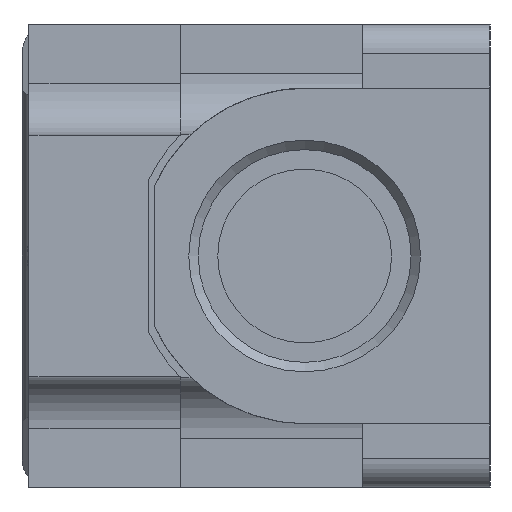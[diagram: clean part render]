
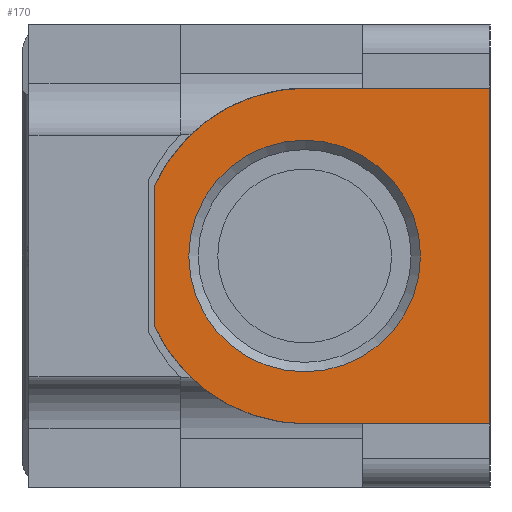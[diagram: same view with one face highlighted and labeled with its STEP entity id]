
A CAD part, left-side view. The second image highlights one B-rep face of the part: STEP entity #170.
In plain terms, the highlighted planar face has unit normal (-1, 0, 0).
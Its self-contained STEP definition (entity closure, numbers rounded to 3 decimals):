
#170 = ADVANCED_FACE( '', ( #362, #363 ), #364, .F. );
#362 = FACE_BOUND( '', #776, .T. );
#363 = FACE_OUTER_BOUND( '', #777, .T. );
#364 = PLANE( '', #778 );
#776 = EDGE_LOOP( '', ( #1194 ) );
#777 = EDGE_LOOP( '', ( #1195, #1196, #1197, #1198, #1199, #1200 ) );
#778 = AXIS2_PLACEMENT_3D( '', #1201, #1202, #1203 );
#1194 = ORIENTED_EDGE( '', *, *, #2696, .T. );
#1195 = ORIENTED_EDGE( '', *, *, #2697, .F. );
#1196 = ORIENTED_EDGE( '', *, *, #2698, .F. );
#1197 = ORIENTED_EDGE( '', *, *, #2699, .F. );
#1198 = ORIENTED_EDGE( '', *, *, #2700, .F. );
#1199 = ORIENTED_EDGE( '', *, *, #2701, .F. );
#1200 = ORIENTED_EDGE( '', *, *, #2702, .F. );
#1201 = CARTESIAN_POINT( '', ( 0., -0.2, 0. ) );
#1202 = DIRECTION( '', ( 1., 0., 0. ) );
#1203 = DIRECTION( '', ( 0., 0., -1. ) );
#2696 = EDGE_CURVE( '', #3169, #3169, #3170, .T. );
#2697 = EDGE_CURVE( '', #3171, #3172, #3173, .T. );
#2698 = EDGE_CURVE( '', #3174, #3171, #3175, .T. );
#2699 = EDGE_CURVE( '', #3176, #3174, #3177, .T. );
#2700 = EDGE_CURVE( '', #3178, #3176, #3179, .T. );
#2701 = EDGE_CURVE( '', #3180, #3178, #3181, .T. );
#2702 = EDGE_CURVE( '', #3172, #3180, #3182, .T. );
#3169 = VERTEX_POINT( '', #3978 );
#3170 = CIRCLE( '', #3979, 10. );
#3171 = VERTEX_POINT( '', #3980 );
#3172 = VERTEX_POINT( '', #3981 );
#3173 = CIRCLE( '', #3982, 14.5 );
#3174 = VERTEX_POINT( '', #3983 );
#3175 = LINE( '', #3984, #3985 );
#3176 = VERTEX_POINT( '', #3986 );
#3177 = CIRCLE( '', #3987, 14.5 );
#3178 = VERTEX_POINT( '', #3988 );
#3179 = LINE( '', #3989, #3990 );
#3180 = VERTEX_POINT( '', #3991 );
#3181 = LINE( '', #3992, #3993 );
#3182 = LINE( '', #3994, #3995 );
#3978 = CARTESIAN_POINT( '', ( 0., 0., -10. ) );
#3979 = AXIS2_PLACEMENT_3D( '', #5068, #5069, #5070 );
#3980 = CARTESIAN_POINT( '', ( 0., 13., 6.001 ) );
#3981 = CARTESIAN_POINT( '', ( 0., -0.2, 14.5 ) );
#3982 = AXIS2_PLACEMENT_3D( '', #5071, #5072, #5073 );
#3983 = CARTESIAN_POINT( '', ( 0., 13., -6.001 ) );
#3984 = CARTESIAN_POINT( '', ( 0., 13., -6.001 ) );
#3985 = VECTOR( '', #5074, 1000. );
#3986 = CARTESIAN_POINT( '', ( 0., -0.2, -14.5 ) );
#3987 = AXIS2_PLACEMENT_3D( '', #5075, #5076, #5077 );
#3988 = CARTESIAN_POINT( '', ( 0., -16., -14.5 ) );
#3989 = CARTESIAN_POINT( '', ( 0., -16., -14.5 ) );
#3990 = VECTOR( '', #5078, 1000. );
#3991 = CARTESIAN_POINT( '', ( 0., -16., 14.5 ) );
#3992 = CARTESIAN_POINT( '', ( 0., -16., 14.5 ) );
#3993 = VECTOR( '', #5079, 1000. );
#3994 = CARTESIAN_POINT( '', ( 0., -0.2, 14.5 ) );
#3995 = VECTOR( '', #5080, 1000. );
#5068 = CARTESIAN_POINT( '', ( 0., 0., 0. ) );
#5069 = DIRECTION( '', ( 1., 0., 0. ) );
#5070 = DIRECTION( '', ( 0., 0., -1. ) );
#5071 = CARTESIAN_POINT( '', ( 0., -0.2, 0. ) );
#5072 = DIRECTION( '', ( 1., 0., 0. ) );
#5073 = DIRECTION( '', ( 0., 0., -1. ) );
#5074 = DIRECTION( '', ( 0., 0., 1. ) );
#5075 = CARTESIAN_POINT( '', ( 0., -0.2, 0. ) );
#5076 = DIRECTION( '', ( 1., 0., 0. ) );
#5077 = DIRECTION( '', ( 0., 0., -1. ) );
#5078 = DIRECTION( '', ( 0., 1., 0. ) );
#5079 = DIRECTION( '', ( 0., 0., -1. ) );
#5080 = DIRECTION( '', ( 0., -1., 0. ) );
